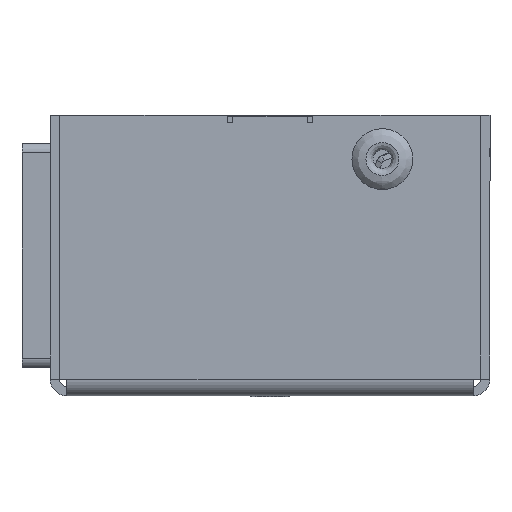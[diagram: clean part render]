
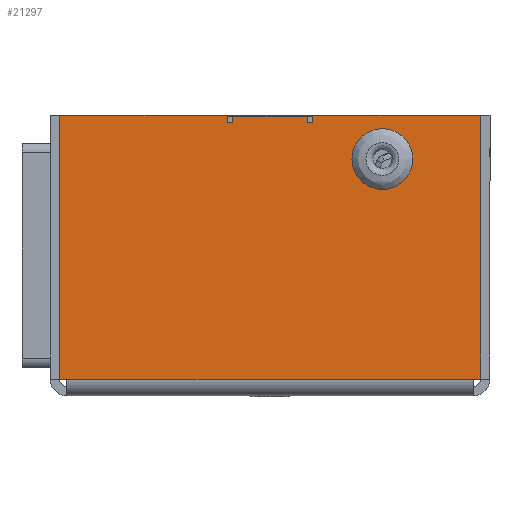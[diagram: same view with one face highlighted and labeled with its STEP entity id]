
A CAD part, left-side view. The second image highlights one B-rep face of the part: STEP entity #21297.
In plain terms, the highlighted planar face has unit normal (-1, 0, 0).
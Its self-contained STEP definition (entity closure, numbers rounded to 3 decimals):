
#16699=CARTESIAN_POINT('',(-28.575,-12.,22.05));
#16700=VERTEX_POINT('',#16699);
#16701=CARTESIAN_POINT('',(-28.575,-12.,25.3));
#16702=DIRECTION('',(1.0,0.0,0.0));
#16703=DIRECTION('',(0.0,0.0,1.0));
#16704=AXIS2_PLACEMENT_3D('',#16701,#16702,#16703);
#16705=CIRCLE('',#16704,3.25);
#16706=EDGE_CURVE('',#16700,#16700,#16705,.T.);
#19916=CARTESIAN_POINT('',(-28.575,4.,29.9));
#19917=VERTEX_POINT('',#19916);
#19924=CARTESIAN_POINT('',(-28.575,-4.,29.9));
#19925=VERTEX_POINT('',#19924);
#19926=CARTESIAN_POINT('',(-28.575,-4.,29.9));
#19927=DIRECTION('',(0.0,1.0,0.0));
#19928=VECTOR('',#19927,8.0);
#19929=LINE('',#19926,#19928);
#19930=EDGE_CURVE('',#19925,#19917,#19929,.T.);
#20668=CARTESIAN_POINT('',(-28.575,-4.,29.2));
#20669=VERTEX_POINT('',#20668);
#20670=CARTESIAN_POINT('',(-28.575,-4.,29.2));
#20671=DIRECTION('',(0.0,0.0,1.0));
#20672=VECTOR('',#20671,0.7);
#20673=LINE('',#20670,#20672);
#20674=EDGE_CURVE('',#20669,#19925,#20673,.T.);
#20693=CARTESIAN_POINT('',(-28.575,4.,29.2));
#20694=VERTEX_POINT('',#20693);
#20701=CARTESIAN_POINT('',(-28.575,4.,29.2));
#20702=DIRECTION('',(0.0,0.0,1.0));
#20703=VECTOR('',#20702,0.7);
#20704=LINE('',#20701,#20703);
#20705=EDGE_CURVE('',#20694,#19917,#20704,.T.);
#20795=CARTESIAN_POINT('',(-28.575,4.55,29.2));
#20796=VERTEX_POINT('',#20795);
#20803=CARTESIAN_POINT('',(-28.575,4.,29.2));
#20804=DIRECTION('',(0.0,1.0,0.0));
#20805=VECTOR('',#20804,0.55);
#20806=LINE('',#20803,#20805);
#20807=EDGE_CURVE('',#20694,#20796,#20806,.T.);
#20963=CARTESIAN_POINT('',(-28.575,4.55,30.0));
#20964=VERTEX_POINT('',#20963);
#20971=CARTESIAN_POINT('',(-28.575,4.55,29.2));
#20972=DIRECTION('',(0.0,0.0,1.0));
#20973=VECTOR('',#20972,0.8);
#20974=LINE('',#20971,#20973);
#20975=EDGE_CURVE('',#20796,#20964,#20974,.T.);
#20985=CARTESIAN_POINT('',(-28.575,-4.55,29.2));
#20986=VERTEX_POINT('',#20985);
#20993=CARTESIAN_POINT('',(-28.575,-4.55,30.0));
#20994=VERTEX_POINT('',#20993);
#20995=CARTESIAN_POINT('',(-28.575,-4.55,30.0));
#20996=DIRECTION('',(0.0,0.0,-1.0));
#20997=VECTOR('',#20996,0.8);
#20998=LINE('',#20995,#20997);
#20999=EDGE_CURVE('',#20994,#20986,#20998,.T.);
#21025=CARTESIAN_POINT('',(-28.575,-4.55,29.2));
#21026=DIRECTION('',(0.0,1.0,0.0));
#21027=VECTOR('',#21026,0.55);
#21028=LINE('',#21025,#21027);
#21029=EDGE_CURVE('',#20986,#20669,#21028,.T.);
#21192=CARTESIAN_POINT('',(-28.575,22.49,30.0));
#21193=VERTEX_POINT('',#21192);
#21200=CARTESIAN_POINT('',(-28.575,22.49,30.0));
#21201=DIRECTION('',(0.0,-1.0,0.0));
#21202=VECTOR('',#21201,17.94);
#21203=LINE('',#21200,#21202);
#21204=EDGE_CURVE('',#21193,#20964,#21203,.T.);
#21215=CARTESIAN_POINT('',(-28.575,-22.49,30.0));
#21216=VERTEX_POINT('',#21215);
#21217=CARTESIAN_POINT('',(-28.575,-4.55,30.0));
#21218=DIRECTION('',(0.0,-1.0,0.0));
#21219=VECTOR('',#21218,17.94);
#21220=LINE('',#21217,#21219);
#21221=EDGE_CURVE('',#20994,#21216,#21220,.T.);
#21240=CARTESIAN_POINT('',(-28.575,22.49,0.0));
#21241=DIRECTION('',(-1.0,0.0,0.0));
#21242=DIRECTION('',(0.0,0.0,1.0));
#21243=AXIS2_PLACEMENT_3D('',#21240,#21241,#21242);
#21244=PLANE('',#21243);
#21245=ORIENTED_EDGE('',*,*,#20999,.T.);
#21246=ORIENTED_EDGE('',*,*,#21029,.T.);
#21247=ORIENTED_EDGE('',*,*,#20674,.T.);
#21248=ORIENTED_EDGE('',*,*,#19930,.T.);
#21249=ORIENTED_EDGE('',*,*,#20705,.F.);
#21250=ORIENTED_EDGE('',*,*,#20807,.T.);
#21251=ORIENTED_EDGE('',*,*,#20975,.T.);
#21252=ORIENTED_EDGE('',*,*,#21204,.F.);
#21253=CARTESIAN_POINT('',(-28.575,22.49,1.8));
#21254=VERTEX_POINT('',#21253);
#21255=CARTESIAN_POINT('',(-28.575,22.49,30.0));
#21256=DIRECTION('',(0.0,0.0,-1.0));
#21257=VECTOR('',#21256,28.2);
#21258=LINE('',#21255,#21257);
#21259=EDGE_CURVE('',#21193,#21254,#21258,.T.);
#21260=ORIENTED_EDGE('',*,*,#21259,.T.);
#21261=CARTESIAN_POINT('',(-28.575,21.7,1.8));
#21262=VERTEX_POINT('',#21261);
#21263=CARTESIAN_POINT('',(-28.575,22.49,1.8));
#21264=DIRECTION('',(0.0,-1.0,0.0));
#21265=VECTOR('',#21264,0.79);
#21266=LINE('',#21263,#21265);
#21267=EDGE_CURVE('',#21254,#21262,#21266,.T.);
#21268=ORIENTED_EDGE('',*,*,#21267,.T.);
#21269=CARTESIAN_POINT('',(-28.575,-21.7,1.8));
#21270=VERTEX_POINT('',#21269);
#21271=CARTESIAN_POINT('',(-28.575,-21.7,1.8));
#21272=DIRECTION('',(0.0,1.0,0.0));
#21273=VECTOR('',#21272,43.4);
#21274=LINE('',#21271,#21273);
#21275=EDGE_CURVE('',#21270,#21262,#21274,.T.);
#21276=ORIENTED_EDGE('',*,*,#21275,.F.);
#21277=CARTESIAN_POINT('',(-28.575,-22.49,1.8));
#21278=VERTEX_POINT('',#21277);
#21279=CARTESIAN_POINT('',(-28.575,-21.7,1.8));
#21280=DIRECTION('',(0.0,-1.0,0.0));
#21281=VECTOR('',#21280,0.79);
#21282=LINE('',#21279,#21281);
#21283=EDGE_CURVE('',#21270,#21278,#21282,.T.);
#21284=ORIENTED_EDGE('',*,*,#21283,.T.);
#21285=CARTESIAN_POINT('',(-28.575,-22.49,1.8));
#21286=DIRECTION('',(0.0,0.0,1.0));
#21287=VECTOR('',#21286,28.2);
#21288=LINE('',#21285,#21287);
#21289=EDGE_CURVE('',#21278,#21216,#21288,.T.);
#21290=ORIENTED_EDGE('',*,*,#21289,.T.);
#21291=ORIENTED_EDGE('',*,*,#21221,.F.);
#21292=EDGE_LOOP('',(#21245,#21246,#21247,#21248,#21249,#21250,#21251,#21252,#21260,#21268,#21276,#21284,#21290,#21291));
#21293=FACE_OUTER_BOUND('',#21292,.T.);
#21294=ORIENTED_EDGE('',*,*,#16706,.T.);
#21295=EDGE_LOOP('',(#21294));
#21296=FACE_BOUND('',#21295,.T.);
#21297=ADVANCED_FACE('',(#21293,#21296),#21244,.T.);
